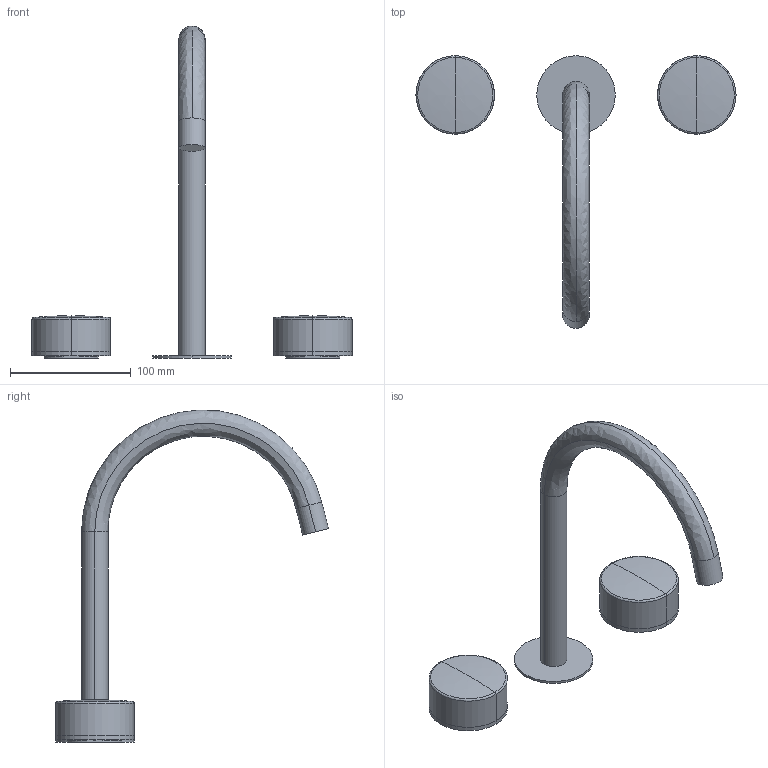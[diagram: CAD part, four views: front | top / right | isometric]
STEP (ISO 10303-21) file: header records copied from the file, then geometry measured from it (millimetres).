
FILE_DESCRIPTION(('STEP AP203'),'2;1');
FILE_NAME('DIS_3D_S104SW.stp','2022-05-17T13:08:22',(''),(''),'2015.2.119','THINKDESIGN','');
FILE_SCHEMA(('CONFIG_CONTROL_DESIGN'));
Length unit declared in the file: millimetre
Bounding box: 265 x 226 x 274.92 mm (x, y, z)
Volume: 399353.3 mm3; surface area: 86522.2 mm2
Topology: 8 solids, 8 shells, 84 faces, 177 edges, 112 vertices
Faces by surface type: cylinder 37, plane 28, bspline 19
Entity records: 3046 total; most frequent: CARTESIAN_POINT 1202, DIRECTION 376, ORIENTED_EDGE 346, EDGE_CURVE 173, AXIS2_PLACEMENT_3D 158, VERTEX_POINT 112, CIRCLE 93, EDGE_LOOP 91
